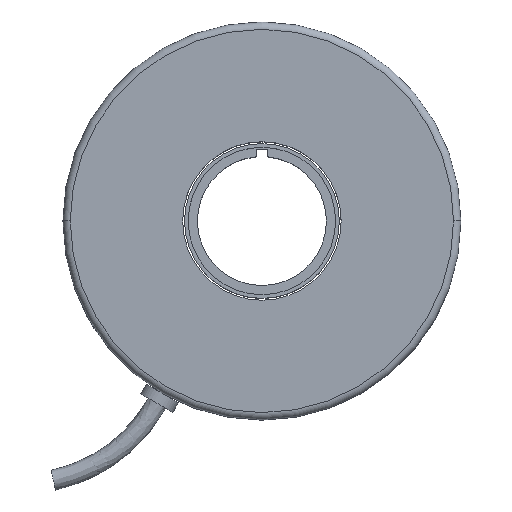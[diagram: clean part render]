
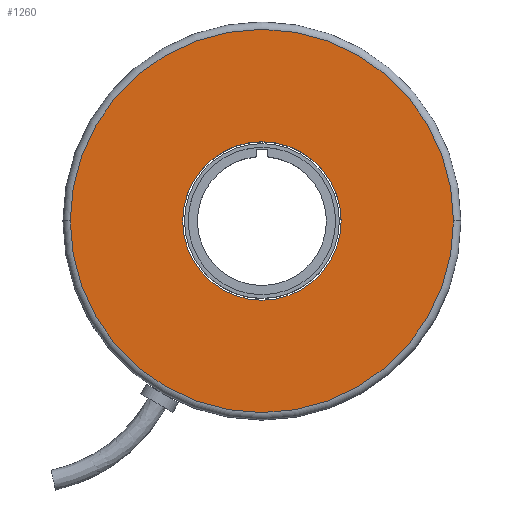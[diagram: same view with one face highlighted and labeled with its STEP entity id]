
A CAD part, top view. The second image highlights one B-rep face of the part: STEP entity #1260.
In plain terms, the highlighted planar face has unit normal (0, 0, 1).
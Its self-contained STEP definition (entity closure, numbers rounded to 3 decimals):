
#34 = CARTESIAN_POINT ( 'NONE',  ( 52., 0., 41. ) ) ;
#80 = VERTEX_POINT ( 'NONE', #34 ) ;
#225 = AXIS2_PLACEMENT_3D ( 'NONE', #1066, #436, #452 ) ;
#239 = CARTESIAN_POINT ( 'NONE',  ( -21.5, 0., 41. ) ) ;
#328 = FACE_BOUND ( 'NONE', #857, .T. ) ;
#334 = EDGE_CURVE ( 'NONE', #760, #80, #1108, .T. ) ;
#344 = CIRCLE ( 'NONE', #1263, 21.5 ) ;
#348 = CARTESIAN_POINT ( 'NONE',  ( 0., 0., 41. ) ) ;
#436 = DIRECTION ( 'NONE',  ( 0., 0., 1. ) ) ;
#452 = DIRECTION ( 'NONE',  ( 1., 0., 0. ) ) ;
#462 = ORIENTED_EDGE ( 'NONE', *, *, #1178, .F. ) ;
#494 = EDGE_CURVE ( 'NONE', #1597, #1207, #344, .T. ) ;
#525 = ORIENTED_EDGE ( 'NONE', *, *, #334, .T. ) ;
#583 = CARTESIAN_POINT ( 'NONE',  ( -52., 0., 41. ) ) ;
#606 = ORIENTED_EDGE ( 'NONE', *, *, #896, .T. ) ;
#610 = DIRECTION ( 'NONE',  ( 0., 0., 1. ) ) ;
#618 = DIRECTION ( 'NONE',  ( 1., 0., 0. ) ) ;
#650 = CIRCLE ( 'NONE', #721, 21.5 ) ;
#710 = DIRECTION ( 'NONE',  ( 0., 0., 1. ) ) ;
#721 = AXIS2_PLACEMENT_3D ( 'NONE', #348, #610, #618 ) ;
#753 = AXIS2_PLACEMENT_3D ( 'NONE', #1300, #710, #962 ) ;
#760 = VERTEX_POINT ( 'NONE', #583 ) ;
#857 = EDGE_LOOP ( 'NONE', ( #462, #1195 ) ) ;
#866 = CARTESIAN_POINT ( 'NONE',  ( 0., 0., 41. ) ) ;
#896 = EDGE_CURVE ( 'NONE', #80, #760, #1421, .T. ) ;
#962 = DIRECTION ( 'NONE',  ( 1., 0., 0. ) ) ;
#987 = DIRECTION ( 'NONE',  ( 0., 0., 1. ) ) ;
#1041 = CARTESIAN_POINT ( 'NONE',  ( 21.5, 0., 41. ) ) ;
#1066 = CARTESIAN_POINT ( 'NONE',  ( 0., 0., 41. ) ) ;
#1073 = PLANE ( 'NONE',  #225 ) ;
#1087 = CARTESIAN_POINT ( 'NONE',  ( 0., 0., 41. ) ) ;
#1108 = CIRCLE ( 'NONE', #1134, 52. ) ;
#1120 = DIRECTION ( 'NONE',  ( 1., 0., 0. ) ) ;
#1134 = AXIS2_PLACEMENT_3D ( 'NONE', #1087, #1587, #1452 ) ;
#1178 = EDGE_CURVE ( 'NONE', #1207, #1597, #650, .T. ) ;
#1195 = ORIENTED_EDGE ( 'NONE', *, *, #494, .F. ) ;
#1207 = VERTEX_POINT ( 'NONE', #1041 ) ;
#1260 = ADVANCED_FACE ( 'NONE', ( #328, #1553 ), #1073, .T. ) ;
#1263 = AXIS2_PLACEMENT_3D ( 'NONE', #866, #987, #1120 ) ;
#1296 = EDGE_LOOP ( 'NONE', ( #606, #525 ) ) ;
#1300 = CARTESIAN_POINT ( 'NONE',  ( 0., 0., 41. ) ) ;
#1421 = CIRCLE ( 'NONE', #753, 52. ) ;
#1452 = DIRECTION ( 'NONE',  ( 1., 0., 0. ) ) ;
#1553 = FACE_OUTER_BOUND ( 'NONE', #1296, .T. ) ;
#1587 = DIRECTION ( 'NONE',  ( 0., 0., 1. ) ) ;
#1597 = VERTEX_POINT ( 'NONE', #239 ) ;
